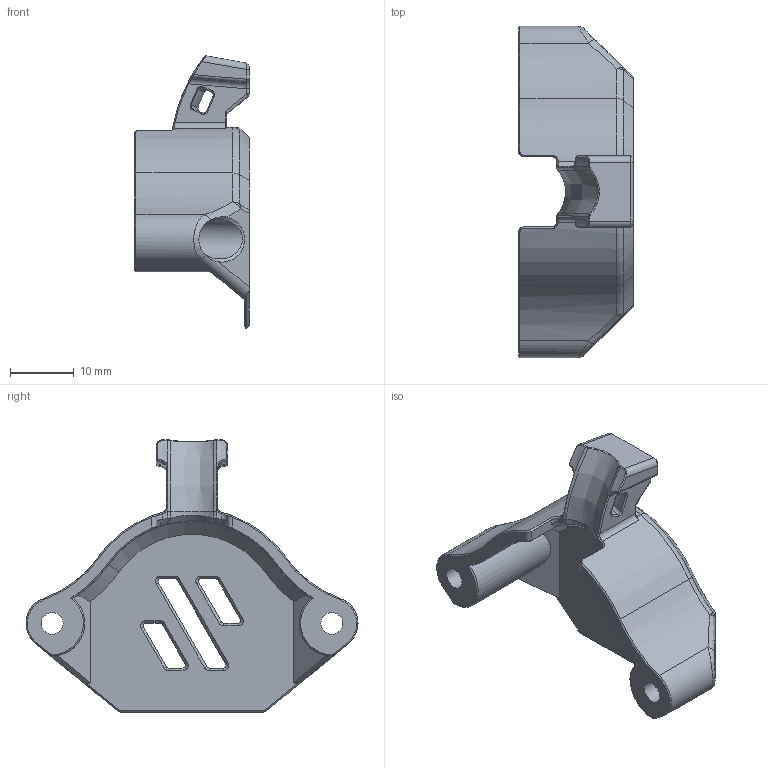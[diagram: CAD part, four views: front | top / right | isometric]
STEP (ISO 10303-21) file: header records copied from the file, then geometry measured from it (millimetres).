
FILE_DESCRIPTION(/* description */ ('STEP AP242','CAx-IF Rec.Pracs.---Representation and Presentation of Product Manufacturing Information (PMI)---4.0---2014-10-13','CAx-IF Rec.Pracs.---3D Tessellated Geometry---0.4---2014-09-14','2;1'),/* implementation_level */ '2;1');
FILE_NAME(/* name */ '61fd440b835c514b8c042984',/* time_stamp */ '2022-02-04T15:19:40+00:00',/* author */ (''),/* organization */ (''),/* preprocessor_version */ 'ST-DEVELOPER v18.101',/* originating_system */ ' ',/* authorisation */ ' ');
FILE_SCHEMA (('AP242_MANAGED_MODEL_BASED_3D_ENGINEERING_MIM_LF { 1 0 10303 442 1 1 4 }'));
Length unit declared in the file: metre
Products named in the file (1): Part 2
Bounding box: 18 x 52.04 x 42.67 mm (x, y, z)
Volume: 4207.6 mm3; surface area: 5288.4 mm2
Topology: 1 solids, 1 shells, 289 faces, 717 edges, 426 vertices
Faces by surface type: plane 102, bspline 65, cone 58, cylinder 54, torus 10
Full cylindrical faces by diameter (mm): 3.4 x2, 6.2 x2
Entity records: 9320 total; most frequent: CARTESIAN_POINT 3055, ORIENTED_EDGE 1410, DIRECTION 1124, EDGE_CURVE 705, VERTEX_POINT 422, AXIS2_PLACEMENT_3D 413, EDGE_LOOP 305, FACE_BOUND 305
